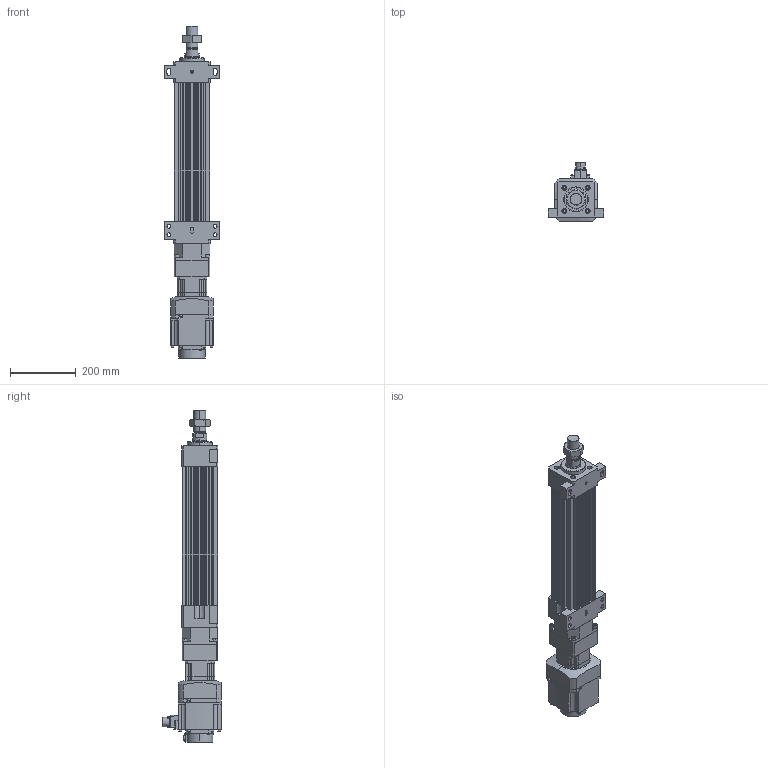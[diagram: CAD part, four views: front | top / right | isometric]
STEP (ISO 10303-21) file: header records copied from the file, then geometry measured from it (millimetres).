
FILE_DESCRIPTION (( 'STEP AP203' ), '1' );
FILE_NAME ('HES110NS(HS)-S250-W010G00-M-FFB.STEP', '2023-01-27T05:32:03', ( 'tms' ), ( '' ), 'SwSTEP 2.0', 'SolidWorks 2013', '' );
FILE_SCHEMA (( 'CONFIG_CONTROL_DESIGN' ));
Length unit declared in the file: millimetre
Products named in the file (8): AB090-003[HG-SR102B]; M36X1.5P; HES110NS(HS)-S250-W010G00-M-FFB; HES110 ROD M ST250; P0401301004; AB0901; HES110-S250-G090-FFB; HG-SR102
Assembly tree (7 placements, depth 3):
  HES110NS(HS)-S250-W010G00-M-FFB
    HES110-S250-G090-FFB
    HES110 ROD M ST250
    M36X1.5P
    AB090-003[HG-SR102B]
      AB0901
      P0401301004
    HG-SR102
Bounding box: 170 x 177.49 x 1008.5 mm (x, y, z)
Volume: 6632138.2 mm3; surface area: 874391.1 mm2
Topology: 4 solids, 15 shells, 1189 faces, 3015 edges, 1964 vertices
Faces by surface type: plane 570, cylinder 529, cone 78, bspline 8, torus 4
Entity records: 37852 total; most frequent: CARTESIAN_POINT 7358, DIRECTION 6498, ORIENTED_EDGE 5982, EDGE_CURVE 3001, AXIS2_PLACEMENT_3D 2375, VERTEX_POINT 1964, VECTOR 1748, LINE 1748
